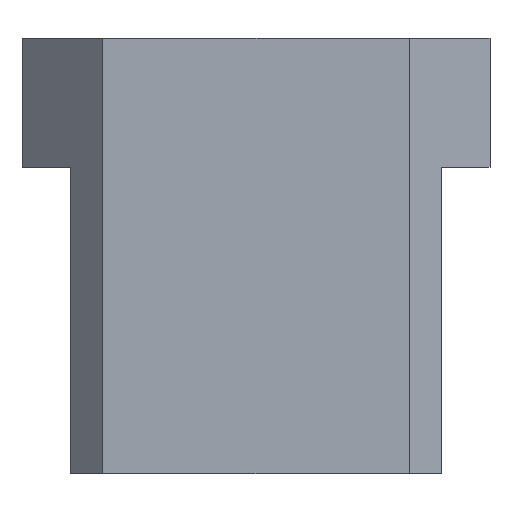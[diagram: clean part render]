
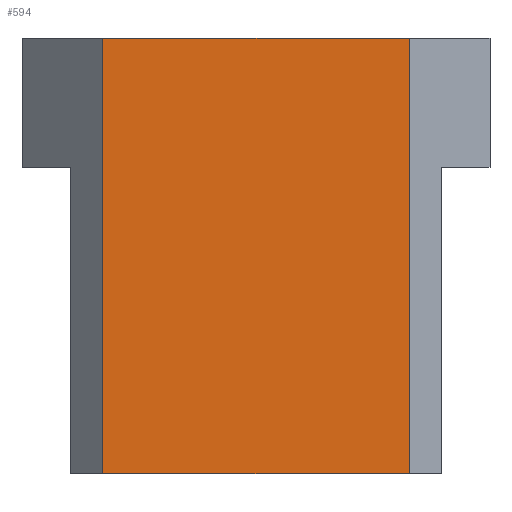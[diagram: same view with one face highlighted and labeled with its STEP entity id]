
A CAD part, front view. The second image highlights one B-rep face of the part: STEP entity #594.
In plain terms, the highlighted planar face has unit normal (0, -1, 0).
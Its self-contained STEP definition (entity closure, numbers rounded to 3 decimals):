
#28 = CARTESIAN_POINT ( 'NONE',  ( 0., 0., 0. ) ) ;
#73 = FACE_OUTER_BOUND ( 'NONE', #713, .T. ) ;
#77 = ORIENTED_EDGE ( 'NONE', *, *, #409, .F. ) ;
#129 = LINE ( 'NONE', #682, #212 ) ;
#140 = DIRECTION ( 'NONE',  ( 0., 0., -1. ) ) ;
#190 = DIRECTION ( 'NONE',  ( 0., 0., 1. ) ) ;
#212 = VECTOR ( 'NONE', #692, 1000. ) ;
#231 = CARTESIAN_POINT ( 'NONE',  ( 11.5, 0., -27. ) ) ;
#242 = DIRECTION ( 'NONE',  ( 0., 1., 0. ) ) ;
#246 = EDGE_CURVE ( 'NONE', #708, #597, #580, .T. ) ;
#282 = CARTESIAN_POINT ( 'NONE',  ( -14.5, 0., 0. ) ) ;
#314 = ORIENTED_EDGE ( 'NONE', *, *, #581, .T. ) ;
#327 = DIRECTION ( 'NONE',  ( 1., 0., 0. ) ) ;
#350 = LINE ( 'NONE', #231, #440 ) ;
#352 = CARTESIAN_POINT ( 'NONE',  ( -9.5, 0., 0. ) ) ;
#379 = CARTESIAN_POINT ( 'NONE',  ( 9.5, 0., 0. ) ) ;
#409 = EDGE_CURVE ( 'NONE', #708, #715, #456, .T. ) ;
#411 = DIRECTION ( 'NONE',  ( -1., 0., 0. ) ) ;
#415 = CARTESIAN_POINT ( 'NONE',  ( -9.5, 0., -27. ) ) ;
#434 = ORIENTED_EDGE ( 'NONE', *, *, #570, .F. ) ;
#440 = VECTOR ( 'NONE', #411, 1000. ) ;
#456 = LINE ( 'NONE', #282, #579 ) ;
#467 = AXIS2_PLACEMENT_3D ( 'NONE', #28, #242, #190 ) ;
#523 = PLANE ( 'NONE',  #467 ) ;
#570 = EDGE_CURVE ( 'NONE', #607, #597, #350, .T. ) ;
#579 = VECTOR ( 'NONE', #327, 1000. ) ;
#580 = LINE ( 'NONE', #352, #600 ) ;
#581 = EDGE_CURVE ( 'NONE', #607, #715, #129, .T. ) ;
#594 = ADVANCED_FACE ( 'NONE', ( #73 ), #523, .F. ) ;
#597 = VERTEX_POINT ( 'NONE', #415 ) ;
#600 = VECTOR ( 'NONE', #140, 1000. ) ;
#607 = VERTEX_POINT ( 'NONE', #640 ) ;
#640 = CARTESIAN_POINT ( 'NONE',  ( 9.5, 0., -27. ) ) ;
#682 = CARTESIAN_POINT ( 'NONE',  ( 9.5, 0., 0. ) ) ;
#692 = DIRECTION ( 'NONE',  ( 0., 0., 1. ) ) ;
#694 = CARTESIAN_POINT ( 'NONE',  ( -9.5, 0., 0. ) ) ;
#708 = VERTEX_POINT ( 'NONE', #694 ) ;
#709 = ORIENTED_EDGE ( 'NONE', *, *, #246, .T. ) ;
#713 = EDGE_LOOP ( 'NONE', ( #77, #709, #434, #314 ) ) ;
#715 = VERTEX_POINT ( 'NONE', #379 ) ;
